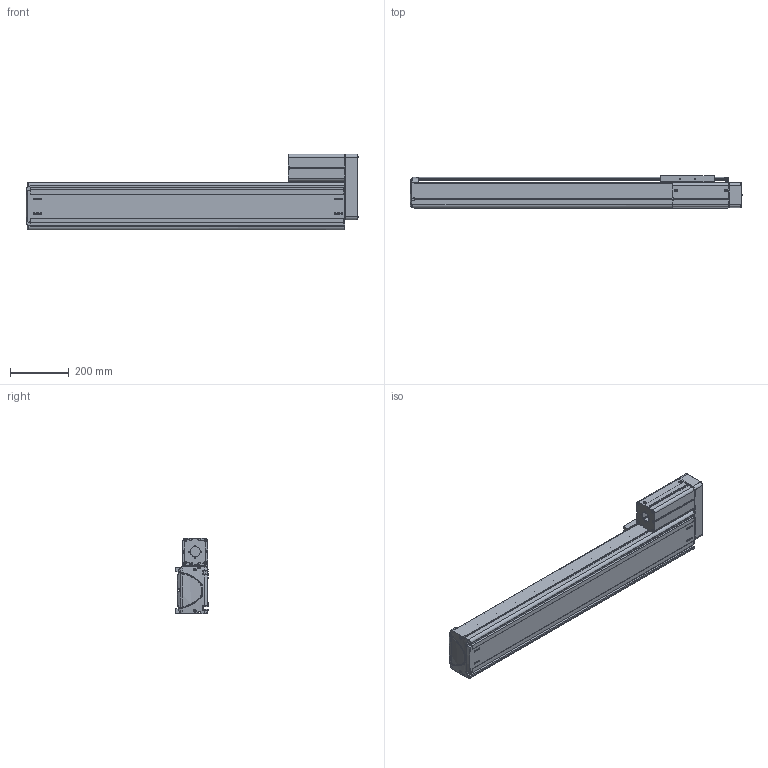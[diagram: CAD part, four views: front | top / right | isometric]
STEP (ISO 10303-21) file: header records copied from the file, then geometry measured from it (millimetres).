
FILE_DESCRIPTION((''),'2;1');
FILE_NAME('BE50F-UR-M_B-80_IGS_PRT','2017-06-18T',(' '),(''),'PRO/ENGINEER BY PARAMETRIC TECHNOLOGY CORPORATION, 2015030','PRO/ENGINEER BY PARAMETRIC TECHNOLOGY CORPORATION, 2015030','');
FILE_SCHEMA(('CONFIG_CONTROL_DESIGN'));
Length unit declared in the file: millimetre
Products named in the file (1): BE50F-UR-M_B-80_IGS_PRT
Bounding box: 1125.88 x 110 x 257 mm (x, y, z)
Volume: 5384156.9 mm3; surface area: 1982148.2 mm2
Topology: 2 solids, 125 shells, 2205 faces, 6006 edges, 3922 vertices
Faces by surface type: plane 1010, cylinder 931, cone 125, torus 59, bspline 48, sphere 32
Entity records: 73032 total; most frequent: CARTESIAN_POINT 16668, DIRECTION 11801, ORIENTED_EDGE 11464, EDGE_CURVE 5964, AXIS2_PLACEMENT_3D 4201, VERTEX_POINT 3916, VECTOR 3399, LINE 3399
